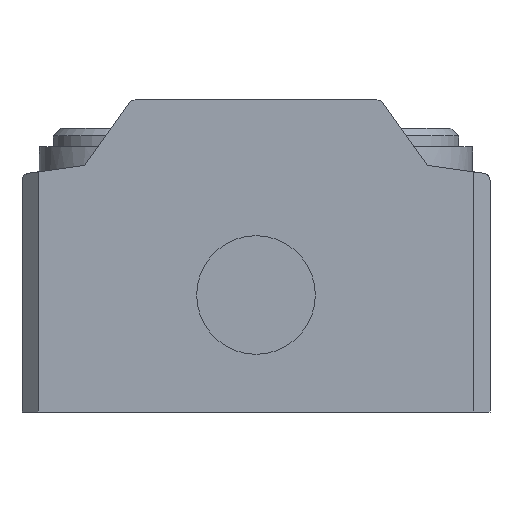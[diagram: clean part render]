
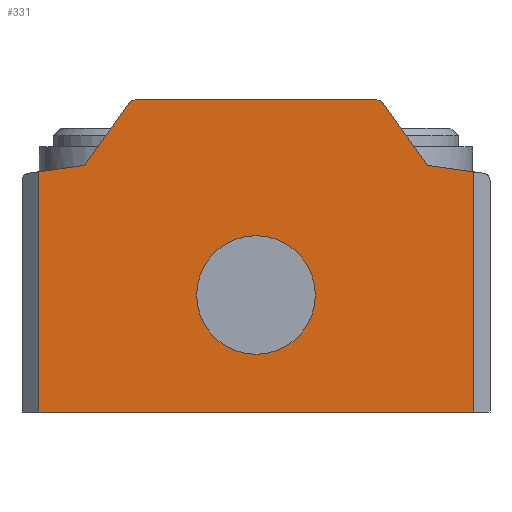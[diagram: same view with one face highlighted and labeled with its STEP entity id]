
A CAD part, front view. The second image highlights one B-rep face of the part: STEP entity #331.
In plain terms, the highlighted planar face has unit normal (0, -1, 0).
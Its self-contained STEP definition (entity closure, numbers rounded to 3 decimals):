
#331 = ADVANCED_FACE( '', ( #875, #876 ), #877, .F. );
#875 = FACE_BOUND( '', #1431, .T. );
#876 = FACE_OUTER_BOUND( '', #1432, .T. );
#877 = PLANE( '', #1433 );
#1431 = EDGE_LOOP( '', ( #3608, #3609 ) );
#1432 = EDGE_LOOP( '', ( #3610, #3611, #3612, #3613, #3614, #3615, #3616, #3617, #3618, #3619 ) );
#1433 = AXIS2_PLACEMENT_3D( '', #3620, #3621, #3622 );
#3608 = ORIENTED_EDGE( '', *, *, #3870, .T. );
#3609 = ORIENTED_EDGE( '', *, *, #3872, .T. );
#3610 = ORIENTED_EDGE( '', *, *, #4391, .T. );
#3611 = ORIENTED_EDGE( '', *, *, #4040, .F. );
#3612 = ORIENTED_EDGE( '', *, *, #4401, .F. );
#3613 = ORIENTED_EDGE( '', *, *, #4402, .F. );
#3614 = ORIENTED_EDGE( '', *, *, #4403, .F. );
#3615 = ORIENTED_EDGE( '', *, *, #4404, .F. );
#3616 = ORIENTED_EDGE( '', *, *, #4405, .F. );
#3617 = ORIENTED_EDGE( '', *, *, #4022, .F. );
#3618 = ORIENTED_EDGE( '', *, *, #4397, .T. );
#3619 = ORIENTED_EDGE( '', *, *, #4406, .F. );
#3620 = CARTESIAN_POINT( '', ( 0., 0., 0. ) );
#3621 = DIRECTION( '', ( 0., 1., 0. ) );
#3622 = DIRECTION( '', ( 0., 0., 1. ) );
#3870 = EDGE_CURVE( '', #4746, #4750, #4752, .T. );
#3872 = EDGE_CURVE( '', #4750, #4746, #4754, .T. );
#4022 = EDGE_CURVE( '', #4985, #4987, #4988, .T. );
#4040 = EDGE_CURVE( '', #5010, #5012, #5013, .T. );
#4391 = EDGE_CURVE( '', #5581, #5012, #5582, .T. );
#4397 = EDGE_CURVE( '', #4985, #5588, #5590, .T. );
#4401 = EDGE_CURVE( '', #5595, #5010, #5596, .T. );
#4402 = EDGE_CURVE( '', #5597, #5595, #5598, .T. );
#4403 = EDGE_CURVE( '', #5599, #5597, #5600, .T. );
#4404 = EDGE_CURVE( '', #5601, #5599, #5602, .T. );
#4405 = EDGE_CURVE( '', #4987, #5601, #5603, .T. );
#4406 = EDGE_CURVE( '', #5581, #5588, #5604, .T. );
#4746 = VERTEX_POINT( '', #6014 );
#4750 = VERTEX_POINT( '', #6019 );
#4752 = CIRCLE( '', #6022, 3.8 );
#4754 = CIRCLE( '', #6024, 3.8 );
#4985 = VERTEX_POINT( '', #6348 );
#4987 = VERTEX_POINT( '', #6351 );
#4988 = LINE( '', #6352, #6353 );
#5010 = VERTEX_POINT( '', #6380 );
#5012 = VERTEX_POINT( '', #6383 );
#5013 = LINE( '', #6384, #6385 );
#5581 = VERTEX_POINT( '', #7276 );
#5582 = LINE( '', #7277, #7278 );
#5588 = VERTEX_POINT( '', #7287 );
#5590 = LINE( '', #7290, #7291 );
#5595 = VERTEX_POINT( '', #7299 );
#5596 = LINE( '', #7300, #7301 );
#5597 = VERTEX_POINT( '', #7302 );
#5598 = CIRCLE( '', #7303, 0.5 );
#5599 = VERTEX_POINT( '', #7304 );
#5600 = LINE( '', #7305, #7306 );
#5601 = VERTEX_POINT( '', #7307 );
#5602 = CIRCLE( '', #7308, 0.5 );
#5603 = LINE( '', #7309, #7310 );
#5604 = LINE( '', #7311, #7312 );
#6014 = CARTESIAN_POINT( '', ( 0., 0., 3.7 ) );
#6019 = CARTESIAN_POINT( '', ( 0., 0., 11.3 ) );
#6022 = AXIS2_PLACEMENT_3D( '', #7731, #7732, #7733 );
#6024 = AXIS2_PLACEMENT_3D( '', #7737, #7738, #7739 );
#6348 = CARTESIAN_POINT( '', ( -13.95, 0., 15.391 ) );
#6351 = CARTESIAN_POINT( '', ( -11., 0., 15.805 ) );
#6352 = CARTESIAN_POINT( '', ( -14.57, 0., 15.304 ) );
#6353 = VECTOR( '', #7999, 1. );
#6380 = CARTESIAN_POINT( '', ( 11., 0., 15.805 ) );
#6383 = CARTESIAN_POINT( '', ( 13.95, 0., 15.391 ) );
#6384 = CARTESIAN_POINT( '', ( 2.5, 0., 17. ) );
#6385 = VECTOR( '', #8039, 1. );
#7276 = CARTESIAN_POINT( '', ( 13.95, 0., 0. ) );
#7277 = CARTESIAN_POINT( '', ( 13.95, 0., 0. ) );
#7278 = VECTOR( '', #8444, 1. );
#7287 = CARTESIAN_POINT( '', ( -13.95, 0., 0. ) );
#7290 = CARTESIAN_POINT( '', ( -13.95, 0., 0. ) );
#7291 = VECTOR( '', #8452, 1. );
#7299 = CARTESIAN_POINT( '', ( 8.15, 0., 19.791 ) );
#7300 = CARTESIAN_POINT( '', ( 8.15, 0., 19.791 ) );
#7301 = VECTOR( '', #8456, 1. );
#7302 = CARTESIAN_POINT( '', ( 7.743, 0., 20. ) );
#7303 = AXIS2_PLACEMENT_3D( '', #8457, #8458, #8459 );
#7304 = CARTESIAN_POINT( '', ( -7.743, 0., 20. ) );
#7305 = CARTESIAN_POINT( '', ( -7.743, 0., 20. ) );
#7306 = VECTOR( '', #8460, 1. );
#7307 = CARTESIAN_POINT( '', ( -8.15, 0., 19.791 ) );
#7308 = AXIS2_PLACEMENT_3D( '', #8461, #8462, #8463 );
#7309 = CARTESIAN_POINT( '', ( -15., 0., 10.212 ) );
#7310 = VECTOR( '', #8464, 1. );
#7311 = CARTESIAN_POINT( '', ( 15., 0., 0. ) );
#7312 = VECTOR( '', #8465, 1. );
#7731 = CARTESIAN_POINT( '', ( 0., 0., 7.5 ) );
#7732 = DIRECTION( '', ( 0., 1., 0. ) );
#7733 = DIRECTION( '', ( 0., 0., -1. ) );
#7737 = CARTESIAN_POINT( '', ( 0., 0., 7.5 ) );
#7738 = DIRECTION( '', ( 0., 1., 0. ) );
#7739 = DIRECTION( '', ( 0., 0., -1. ) );
#7999 = DIRECTION( '', ( 0.99, 0., 0.139 ) );
#8039 = DIRECTION( '', ( 0.99, 0., -0.139 ) );
#8444 = DIRECTION( '', ( 0., 0., 1. ) );
#8452 = DIRECTION( '', ( 0., 0., -1. ) );
#8456 = DIRECTION( '', ( 0.582, 0., -0.813 ) );
#8457 = CARTESIAN_POINT( '', ( 7.743, 0., 19.5 ) );
#8458 = DIRECTION( '', ( 0., 1., 0. ) );
#8459 = DIRECTION( '', ( 0., 0., 1. ) );
#8460 = DIRECTION( '', ( 1., 0., 0. ) );
#8461 = CARTESIAN_POINT( '', ( -7.743, 0., 19.5 ) );
#8462 = DIRECTION( '', ( 0., 1., 0. ) );
#8463 = DIRECTION( '', ( -0.813, 0., 0.582 ) );
#8464 = DIRECTION( '', ( 0.582, 0., 0.813 ) );
#8465 = DIRECTION( '', ( -1., 0., 0. ) );
